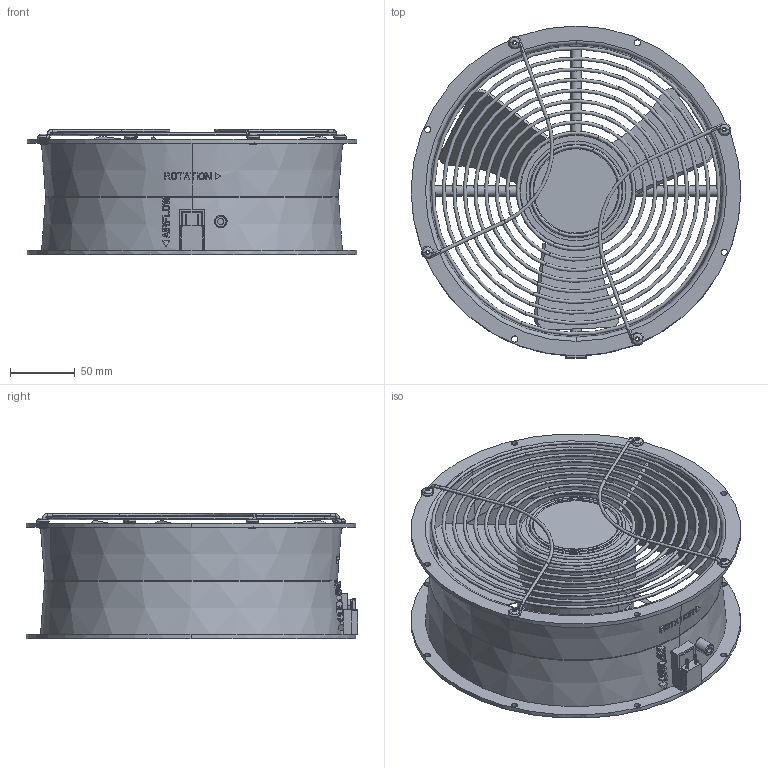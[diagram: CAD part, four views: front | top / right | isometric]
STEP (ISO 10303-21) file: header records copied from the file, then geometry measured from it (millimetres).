
FILE_DESCRIPTION((''),'2;1');
FILE_NAME('SCE-CF10_ASM','2011-07-08T',('DougP'),(''),'PRO/ENGINEER BY PARAMETRIC TECHNOLOGY CORPORATION, 2009230','PRO/ENGINEER BY PARAMETRIC TECHNOLOGY CORPORATION, 2009230','');
FILE_SCHEMA(('AUTOMOTIVE_DESIGN { 1 0 10303 214 1 1 1 1 }'));
Length unit declared in the file: inch
Products named in the file (6): FAN-HOUSING-102450; 102450_ASM; 102456; 102597; 102048; SCE-CF10_ASM
Assembly tree (8 placements, depth 3):
  SCE-CF10_ASM
    102450_ASM
      FAN-HOUSING-102450
    102456
    102597  x4
    102048
Bounding box: 254 x 255.52 x 96.27 mm (x, y, z)
Volume: 913971.3 mm3; surface area: 291706.3 mm2
Topology: 17 solids, 17 shells, 659 faces, 1745 edges, 1139 vertices
Faces by surface type: plane 405, cylinder 121, torus 108, cone 17, bspline 8
Entity records: 23540 total; most frequent: CARTESIAN_POINT 4546, ORIENTED_EDGE 3298, DIRECTION 2983, EDGE_CURVE 1649, VERTEX_POINT 1079, AXIS2_PLACEMENT_3D 1078, VECTOR 827, LINE 827
